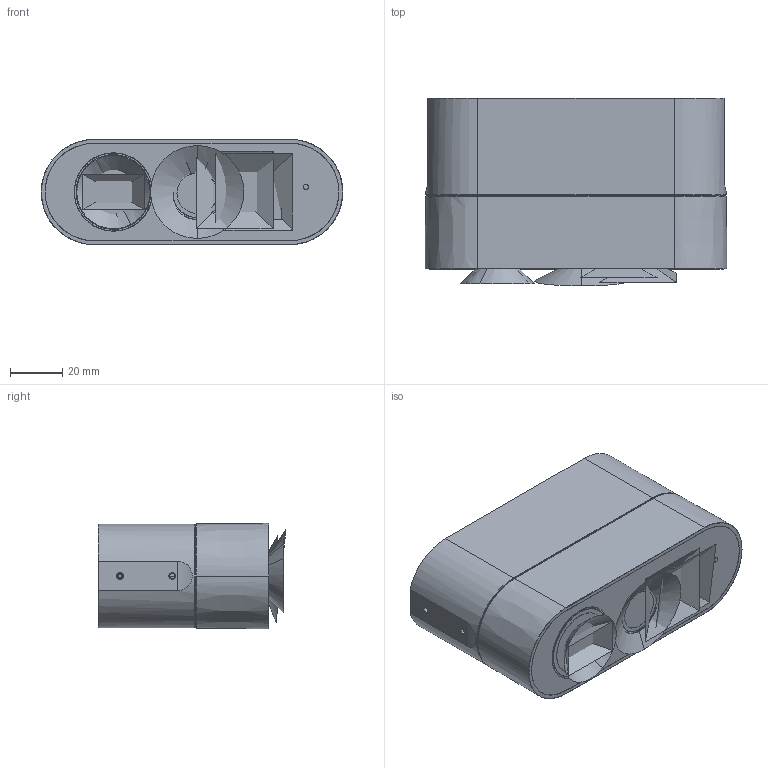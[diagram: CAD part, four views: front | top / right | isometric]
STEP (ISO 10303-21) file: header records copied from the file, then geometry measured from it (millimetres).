
FILE_DESCRIPTION(('CATIA V5 STEP Exchange'),'2;1');
FILE_NAME('C:\Users\guanshanyue\Desktop\femto外发\Femto bolt-22.stp','2024-01-24T11:48:24+00:00',('none'),('none'),'CATIA Version 5 Release 21 GA (IN-10)','CATIA V5 STEP AP203 Edition 2','none');
FILE_SCHEMA(('AP203_CONFIGURATION_CONTROLLED_3D_DESIGN_OF_MECHANICAL_PARTS_AND_ASSEMBLIES_MIM_LF { 1 0 10303 403 2 1 2}'));
Length unit declared in the file: millimetre
Products named in the file (1): Femto bolt_AllCATPart
Bounding box: 115.26 x 71.77 x 40.27 mm (x, y, z)
Volume: 235704.7 mm3; surface area: 72952 mm2
Topology: 24 solids, 59 shells, 4276 faces, 11973 edges, 7719 vertices
Faces by surface type: plane 2731, cylinder 1088, cone 238, torus 111, bspline 55, extrusion 30, sphere 23
Entity records: 152637 total; most frequent: CARTESIAN_POINT 45867, ORIENTED_EDGE 23820, DIRECTION 18788, EDGE_CURVE 11955, VECTOR 8584, LINE 8554, VERTEX_POINT 7719, AXIS2_PLACEMENT_3D 6018
